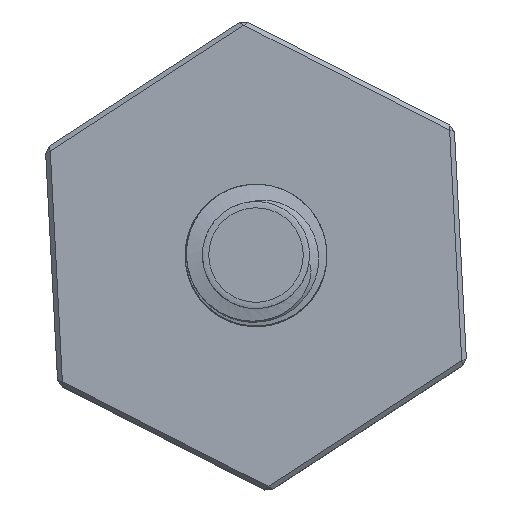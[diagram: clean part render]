
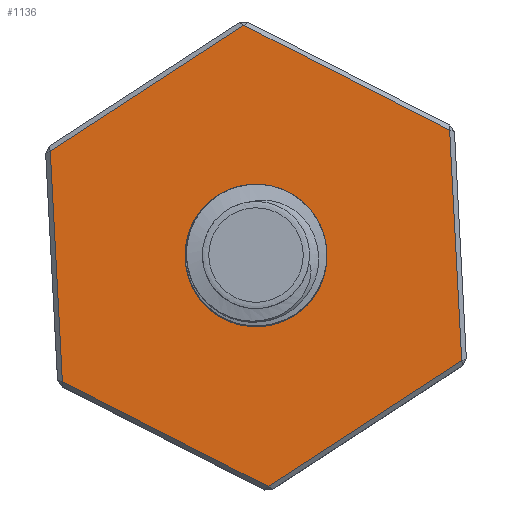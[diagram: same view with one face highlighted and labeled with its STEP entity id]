
A CAD part, top view. The second image highlights one B-rep face of the part: STEP entity #1136.
In plain terms, the highlighted planar face has unit normal (0, 0, 1).
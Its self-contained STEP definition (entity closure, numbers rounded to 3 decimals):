
#86=CIRCLE('',#1242,2.459);
#243=ORIENTED_EDGE('',*,*,#478,.T.);
#244=ORIENTED_EDGE('',*,*,#479,.T.);
#245=ORIENTED_EDGE('',*,*,#480,.T.);
#246=ORIENTED_EDGE('',*,*,#481,.T.);
#247=ORIENTED_EDGE('',*,*,#482,.T.);
#248=ORIENTED_EDGE('',*,*,#483,.T.);
#249=ORIENTED_EDGE('',*,*,#484,.T.);
#478=EDGE_CURVE('',#603,#603,#86,.T.);
#479=EDGE_CURVE('',#604,#605,#687,.T.);
#480=EDGE_CURVE('',#605,#606,#688,.T.);
#481=EDGE_CURVE('',#606,#607,#689,.T.);
#482=EDGE_CURVE('',#607,#608,#690,.T.);
#483=EDGE_CURVE('',#608,#609,#691,.T.);
#484=EDGE_CURVE('',#609,#604,#692,.T.);
#603=VERTEX_POINT('',#8774);
#604=VERTEX_POINT('',#8776);
#605=VERTEX_POINT('',#8777);
#606=VERTEX_POINT('',#8779);
#607=VERTEX_POINT('',#8781);
#608=VERTEX_POINT('',#8783);
#609=VERTEX_POINT('',#8785);
#687=LINE('',#8775,#804);
#688=LINE('',#8778,#805);
#689=LINE('',#8780,#806);
#690=LINE('',#8782,#807);
#691=LINE('',#8784,#808);
#692=LINE('',#8786,#809);
#804=VECTOR('',#1457,1000.);
#805=VECTOR('',#1458,1000.);
#806=VECTOR('',#1459,1000.);
#807=VECTOR('',#1460,1000.);
#808=VECTOR('',#1461,1000.);
#809=VECTOR('',#1462,1000.);
#901=EDGE_LOOP('',(#243));
#902=EDGE_LOOP('',(#244,#245,#246,#247,#248,#249));
#991=FACE_BOUND('',#901,.T.);
#992=FACE_BOUND('',#902,.T.);
#1063=PLANE('',#1241);
#1136=ADVANCED_FACE('',(#991,#992),#1063,.T.);
#1241=AXIS2_PLACEMENT_3D('',#8772,#1453,#1454);
#1242=AXIS2_PLACEMENT_3D('',#8773,#1455,#1456);
#1453=DIRECTION('',(0.,0.,1.));
#1454=DIRECTION('',(1.,0.,0.));
#1455=DIRECTION('',(0.,0.,-1.));
#1456=DIRECTION('',(0.,-1.,0.));
#1457=DIRECTION('',(1.,0.,0.));
#1458=DIRECTION('',(0.5,0.866,0.));
#1459=DIRECTION('',(-0.5,0.866,0.));
#1460=DIRECTION('',(-1.,0.,0.));
#1461=DIRECTION('',(-0.5,-0.866,0.));
#1462=DIRECTION('',(0.5,-0.866,0.));
#8772=CARTESIAN_POINT('',(5.,8.66,34.885));
#8773=CARTESIAN_POINT('',(0.,0.,34.885));
#8774=CARTESIAN_POINT('',(0.,-2.459,34.885));
#8775=CARTESIAN_POINT('',(5.,-8.46,34.885));
#8776=CARTESIAN_POINT('',(-4.885,-8.46,34.885));
#8777=CARTESIAN_POINT('',(4.885,-8.46,34.885));
#8778=CARTESIAN_POINT('',(9.827,0.1,34.885));
#8779=CARTESIAN_POINT('',(9.769,0.,34.885));
#8780=CARTESIAN_POINT('',(4.827,8.56,34.885));
#8781=CARTESIAN_POINT('',(4.885,8.46,34.885));
#8782=CARTESIAN_POINT('',(-5.,8.46,34.885));
#8783=CARTESIAN_POINT('',(-4.885,8.46,34.885));
#8784=CARTESIAN_POINT('',(-9.827,-0.1,34.885));
#8785=CARTESIAN_POINT('',(-9.769,0.,34.885));
#8786=CARTESIAN_POINT('',(-4.827,-8.56,34.885));
